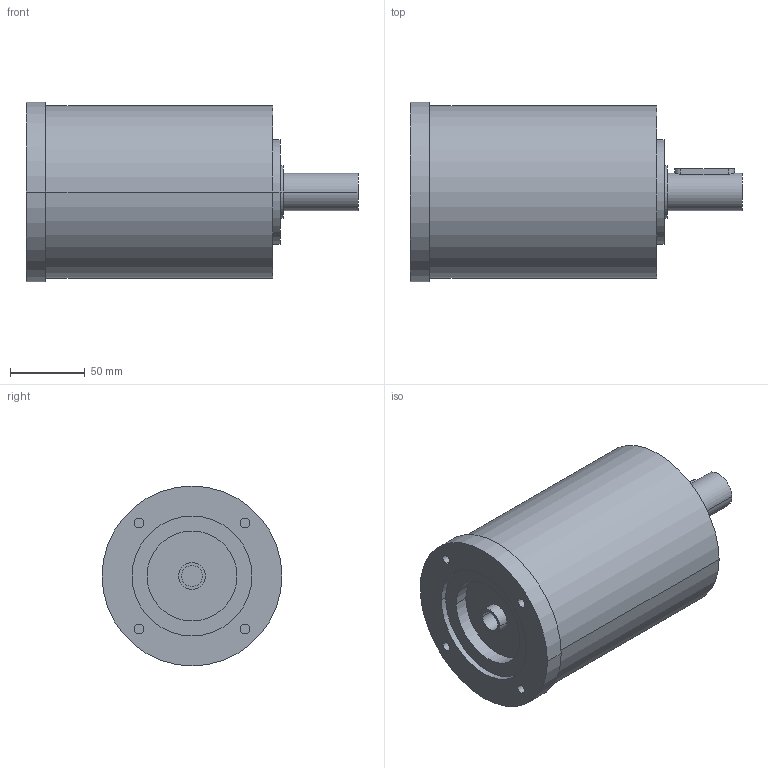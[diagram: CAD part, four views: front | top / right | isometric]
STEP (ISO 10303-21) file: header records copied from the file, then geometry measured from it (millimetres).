
FILE_DESCRIPTION(('CoCreate Modeling STEP Export'),'2;1');
FILE_NAME('GPR125_ig-9-12-16-20-28-35_25_B14_14_P05.stp','2014-08-26T14:09:36',(''),(''),'CoCreate Modeling STEP processor for AP214 (Solid Model)','CoCreate Modeling 16.00C 25-Feb-2009 (C) Parametric Technology GmbH','');
FILE_SCHEMA(('AUTOMOTIVE_DESIGN { 1 0 10303 214 1 1 1 1 }'));
Length unit declared in the file: millimetre
Products named in the file (2): GPR125_ig-9-12-16-20-28-35_25_B14_14_P05
Assembly tree (1 placements, depth 2):
  GPR125_ig-9-12-16-20-28-35_25_B14_14_P05
    GPR125_ig-9-12-16-20-28-35_25_B14_14_P05
Bounding box: 221.4 x 120 x 120 mm (x, y, z)
Volume: 1709761.8 mm3; surface area: 96764.7 mm2
Topology: 1 solids, 1 shells, 75 faces, 190 edges, 136 vertices
Faces by surface type: cylinder 46, plane 25, cone 4
Entity records: 1925 total; most frequent: ORIENTED_EDGE 376, CARTESIAN_POINT 357, DIRECTION 250, EDGE_CURVE 188, VERTEX_POINT 136, AXIS2_PLACEMENT_3D 97, EDGE_LOOP 96, FACE_OUTER_BOUND 75
